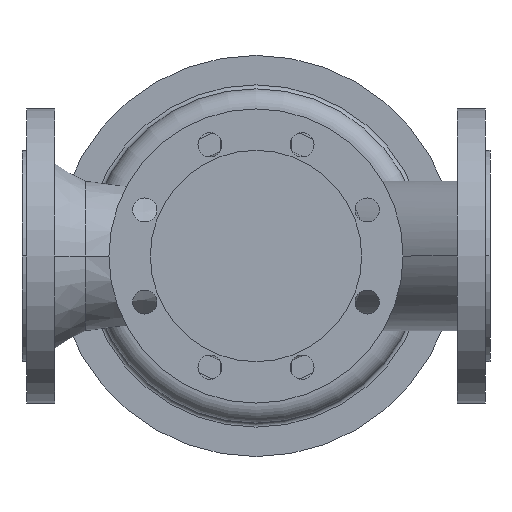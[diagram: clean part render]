
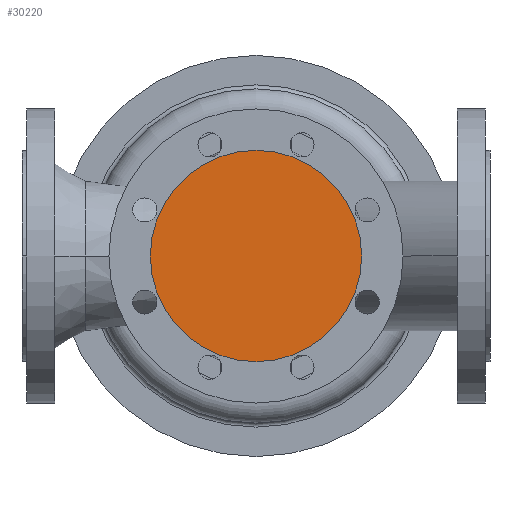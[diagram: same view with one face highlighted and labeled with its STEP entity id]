
A CAD part, front view. The second image highlights one B-rep face of the part: STEP entity #30220.
In plain terms, the highlighted planar face has unit normal (0, -1, 0).
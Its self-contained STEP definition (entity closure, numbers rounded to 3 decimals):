
#3270=CARTESIAN_POINT('',(254.,-150.,0.));
#3280=VERTEX_POINT('',#3270);
#3440=CARTESIAN_POINT('',(96.,-150.,0.));
#3450=VERTEX_POINT('',#3440);
#3480=CARTESIAN_POINT('',(175.,-150.,0.));
#3490=DIRECTION('',(0.,1.,0.));
#3500=DIRECTION('',(1.,0.,0.));
#3510=AXIS2_PLACEMENT_3D('',#3480,#3490,#3500);
#3520=CIRCLE('',#3510,79.);
#3530=EDGE_CURVE('',#3280,#3450,#3520,.T.);
#30120=CARTESIAN_POINT('',(214.5,-150.,0.));
#30130=DIRECTION('',(0.,-1.,0.));
#30140=DIRECTION('',(-1.,0.,0.));
#30150=AXIS2_PLACEMENT_3D('',#30120,#30130,#30140);
#30160=PLANE('',#30150);
#30170=EDGE_CURVE('',#3450,#3280,#3520,.T.);
#30180=ORIENTED_EDGE('',*,*,#30170,.F.);
#30190=ORIENTED_EDGE('',*,*,#3530,.F.);
#30200=EDGE_LOOP('',(#30190,#30180));
#30210=FACE_OUTER_BOUND('',#30200,.T.);
#30220=ADVANCED_FACE('',(#30210),#30160,.T.);
